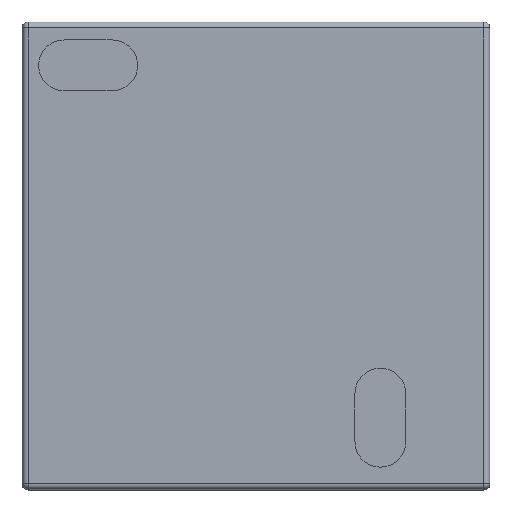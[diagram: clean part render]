
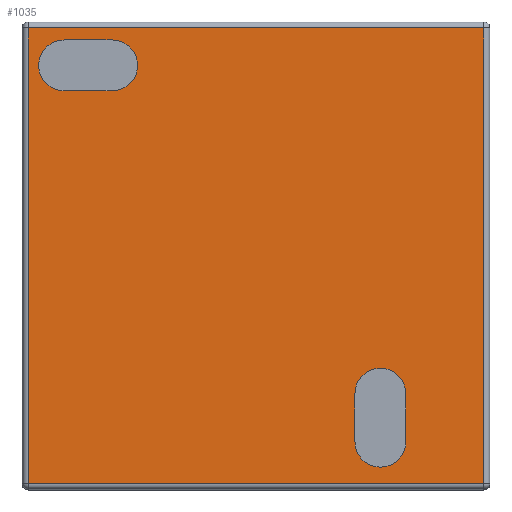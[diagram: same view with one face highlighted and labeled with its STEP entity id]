
A CAD part, top view. The second image highlights one B-rep face of the part: STEP entity #1035.
In plain terms, the highlighted planar face has unit normal (0, 0, 1).
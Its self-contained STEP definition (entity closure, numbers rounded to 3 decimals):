
#3 = DIRECTION ( 'NONE',  ( 0., 1., 0. ) ) ;
#11 = VERTEX_POINT ( 'NONE', #366 ) ;
#22 = DIRECTION ( 'NONE',  ( 0., 0., 1. ) ) ;
#37 = ORIENTED_EDGE ( 'NONE', *, *, #1097, .F. ) ;
#39 = CIRCLE ( 'NONE', #1037, 4.25 ) ;
#67 = DIRECTION ( 'NONE',  ( 1., 0., 0. ) ) ;
#73 = LINE ( 'NONE', #1611, #892 ) ;
#83 = DIRECTION ( 'NONE',  ( 0., 0., 1. ) ) ;
#84 = CARTESIAN_POINT ( 'NONE',  ( -32., 36., 42.7 ) ) ;
#87 = VECTOR ( 'NONE', #421, 1000. ) ;
#89 = DIRECTION ( 'NONE',  ( 0., 0., 1. ) ) ;
#109 = ORIENTED_EDGE ( 'NONE', *, *, #1095, .T. ) ;
#113 = CARTESIAN_POINT ( 'NONE',  ( -38., -39., 42.7 ) ) ;
#114 = CARTESIAN_POINT ( 'NONE',  ( -39., 38., 42.7 ) ) ;
#150 = ORIENTED_EDGE ( 'NONE', *, *, #1636, .F. ) ;
#170 = CARTESIAN_POINT ( 'NONE',  ( 25., -31., 42.7 ) ) ;
#178 = VECTOR ( 'NONE', #3, 1000. ) ;
#222 = VERTEX_POINT ( 'NONE', #852 ) ;
#249 = DIRECTION ( 'NONE',  ( 0., 0., 1. ) ) ;
#251 = EDGE_CURVE ( 'NONE', #520, #1478, #724, .T. ) ;
#262 = CARTESIAN_POINT ( 'NONE',  ( 38., 39., 42.7 ) ) ;
#265 = DIRECTION ( 'NONE',  ( 1., 0., 0. ) ) ;
#275 = FACE_BOUND ( 'NONE', #1270, .T. ) ;
#277 = VERTEX_POINT ( 'NONE', #479 ) ;
#301 = CARTESIAN_POINT ( 'NONE',  ( 0., 0., 42.7 ) ) ;
#355 = VECTOR ( 'NONE', #451, 1000. ) ;
#366 = CARTESIAN_POINT ( 'NONE',  ( -32., 27.5, 42.7 ) ) ;
#394 = DIRECTION ( 'NONE',  ( 0., 0., 1. ) ) ;
#421 = DIRECTION ( 'NONE',  ( 1., 0., 0. ) ) ;
#430 = CIRCLE ( 'NONE', #1376, 4.25 ) ;
#451 = DIRECTION ( 'NONE',  ( 0., -1., 0. ) ) ;
#463 = DIRECTION ( 'NONE',  ( 1., 0., 0. ) ) ;
#479 = CARTESIAN_POINT ( 'NONE',  ( 16.5, -23., 42.7 ) ) ;
#520 = VERTEX_POINT ( 'NONE', #800 ) ;
#523 = AXIS2_PLACEMENT_3D ( 'NONE', #301, #394, #265 ) ;
#550 = FACE_OUTER_BOUND ( 'NONE', #1267, .T. ) ;
#586 = CARTESIAN_POINT ( 'NONE',  ( -32., 36., 42.7 ) ) ;
#614 = CARTESIAN_POINT ( 'NONE',  ( 20.75, -31., 42.7 ) ) ;
#621 = EDGE_CURVE ( 'NONE', #1133, #520, #743, .T. ) ;
#623 = EDGE_CURVE ( 'NONE', #1286, #1133, #646, .T. ) ;
#628 = DIRECTION ( 'NONE',  ( -1., 0., 0. ) ) ;
#646 = LINE ( 'NONE', #262, #178 ) ;
#663 = CARTESIAN_POINT ( 'NONE',  ( 38., -38., 42.7 ) ) ;
#690 = VECTOR ( 'NONE', #628, 1000. ) ;
#693 = EDGE_CURVE ( 'NONE', #11, #1445, #784, .T. ) ;
#694 = DIRECTION ( 'NONE',  ( 0., 0., 1. ) ) ;
#714 = LINE ( 'NONE', #1339, #355 ) ;
#721 = CARTESIAN_POINT ( 'NONE',  ( 20.75, -23., 42.7 ) ) ;
#724 = LINE ( 'NONE', #113, #1067 ) ;
#725 = CARTESIAN_POINT ( 'NONE',  ( -32., 31.75, 42.7 ) ) ;
#728 = AXIS2_PLACEMENT_3D ( 'NONE', #721, #83, #978 ) ;
#742 = EDGE_CURVE ( 'NONE', #1445, #1040, #1032, .T. ) ;
#743 = LINE ( 'NONE', #114, #690 ) ;
#763 = AXIS2_PLACEMENT_3D ( 'NONE', #1351, #89, #1468 ) ;
#773 = DIRECTION ( 'NONE',  ( 0., 1., 0. ) ) ;
#774 = VERTEX_POINT ( 'NONE', #170 ) ;
#779 = CARTESIAN_POINT ( 'NONE',  ( -38., -38., 42.7 ) ) ;
#784 = LINE ( 'NONE', #1554, #87 ) ;
#800 = CARTESIAN_POINT ( 'NONE',  ( -38., 38., 42.7 ) ) ;
#802 = DIRECTION ( 'NONE',  ( 1., 0., 0. ) ) ;
#852 = CARTESIAN_POINT ( 'NONE',  ( 25., -23., 42.7 ) ) ;
#892 = VECTOR ( 'NONE', #67, 1000. ) ;
#896 = EDGE_CURVE ( 'NONE', #1114, #1438, #39, .T. ) ;
#903 = EDGE_CURVE ( 'NONE', #1438, #11, #1465, .T. ) ;
#927 = CARTESIAN_POINT ( 'NONE',  ( 25., -31., 42.7 ) ) ;
#941 = CARTESIAN_POINT ( 'NONE',  ( -24., 31.75, 42.7 ) ) ;
#945 = FACE_BOUND ( 'NONE', #1612, .T. ) ;
#955 = LINE ( 'NONE', #84, #1297 ) ;
#959 = ORIENTED_EDGE ( 'NONE', *, *, #251, .T. ) ;
#961 = CARTESIAN_POINT ( 'NONE',  ( 38., 38., 42.7 ) ) ;
#978 = DIRECTION ( 'NONE',  ( 1., 0., 0. ) ) ;
#995 = ORIENTED_EDGE ( 'NONE', *, *, #742, .F. ) ;
#1015 = CARTESIAN_POINT ( 'NONE',  ( -24., 27.5, 42.7 ) ) ;
#1032 = CIRCLE ( 'NONE', #1249, 4.25 ) ;
#1035 = ADVANCED_FACE ( 'NONE', ( #550, #275, #945 ), #1457, .T. ) ;
#1037 = AXIS2_PLACEMENT_3D ( 'NONE', #725, #694, #463 ) ;
#1040 = VERTEX_POINT ( 'NONE', #1427 ) ;
#1067 = VECTOR ( 'NONE', #1483, 1000. ) ;
#1095 = EDGE_CURVE ( 'NONE', #1478, #1286, #73, .T. ) ;
#1097 = EDGE_CURVE ( 'NONE', #222, #277, #1458, .T. ) ;
#1114 = VERTEX_POINT ( 'NONE', #586 ) ;
#1133 = VERTEX_POINT ( 'NONE', #961 ) ;
#1156 = DIRECTION ( 'NONE',  ( 1., 0., 0. ) ) ;
#1159 = ORIENTED_EDGE ( 'NONE', *, *, #1586, .F. ) ;
#1184 = ORIENTED_EDGE ( 'NONE', *, *, #623, .T. ) ;
#1193 = ORIENTED_EDGE ( 'NONE', *, *, #903, .F. ) ;
#1243 = EDGE_CURVE ( 'NONE', #1486, #774, #430, .T. ) ;
#1249 = AXIS2_PLACEMENT_3D ( 'NONE', #941, #22, #802 ) ;
#1267 = EDGE_LOOP ( 'NONE', ( #109, #1184, #1374, #959 ) ) ;
#1269 = CARTESIAN_POINT ( 'NONE',  ( -36.25, 31.75, 42.7 ) ) ;
#1270 = EDGE_LOOP ( 'NONE', ( #1349, #1193, #1640, #150, #995 ) ) ;
#1286 = VERTEX_POINT ( 'NONE', #663 ) ;
#1297 = VECTOR ( 'NONE', #1331, 1000. ) ;
#1331 = DIRECTION ( 'NONE',  ( -1., 0., 0. ) ) ;
#1339 = CARTESIAN_POINT ( 'NONE',  ( 16.5, -31., 42.7 ) ) ;
#1349 = ORIENTED_EDGE ( 'NONE', *, *, #693, .F. ) ;
#1351 = CARTESIAN_POINT ( 'NONE',  ( -32., 31.75, 42.7 ) ) ;
#1374 = ORIENTED_EDGE ( 'NONE', *, *, #621, .T. ) ;
#1376 = AXIS2_PLACEMENT_3D ( 'NONE', #614, #249, #1156 ) ;
#1427 = CARTESIAN_POINT ( 'NONE',  ( -24., 36., 42.7 ) ) ;
#1438 = VERTEX_POINT ( 'NONE', #1269 ) ;
#1441 = ORIENTED_EDGE ( 'NONE', *, *, #1517, .F. ) ;
#1445 = VERTEX_POINT ( 'NONE', #1015 ) ;
#1457 = PLANE ( 'NONE',  #523 ) ;
#1458 = CIRCLE ( 'NONE', #728, 4.25 ) ;
#1465 = CIRCLE ( 'NONE', #763, 4.25 ) ;
#1468 = DIRECTION ( 'NONE',  ( 1., 0., 0. ) ) ;
#1478 = VERTEX_POINT ( 'NONE', #779 ) ;
#1483 = DIRECTION ( 'NONE',  ( 0., -1., 0. ) ) ;
#1486 = VERTEX_POINT ( 'NONE', #1550 ) ;
#1517 = EDGE_CURVE ( 'NONE', #774, #222, #1541, .T. ) ;
#1518 = ORIENTED_EDGE ( 'NONE', *, *, #1243, .F. ) ;
#1541 = LINE ( 'NONE', #927, #1590 ) ;
#1550 = CARTESIAN_POINT ( 'NONE',  ( 16.5, -31., 42.7 ) ) ;
#1554 = CARTESIAN_POINT ( 'NONE',  ( -32., 27.5, 42.7 ) ) ;
#1586 = EDGE_CURVE ( 'NONE', #277, #1486, #714, .T. ) ;
#1590 = VECTOR ( 'NONE', #773, 1000. ) ;
#1611 = CARTESIAN_POINT ( 'NONE',  ( 39., -38., 42.7 ) ) ;
#1612 = EDGE_LOOP ( 'NONE', ( #1441, #1518, #1159, #37 ) ) ;
#1636 = EDGE_CURVE ( 'NONE', #1040, #1114, #955, .T. ) ;
#1640 = ORIENTED_EDGE ( 'NONE', *, *, #896, .F. ) ;
